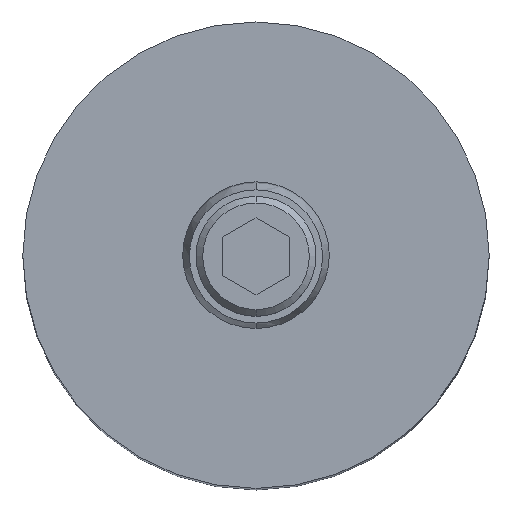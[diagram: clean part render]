
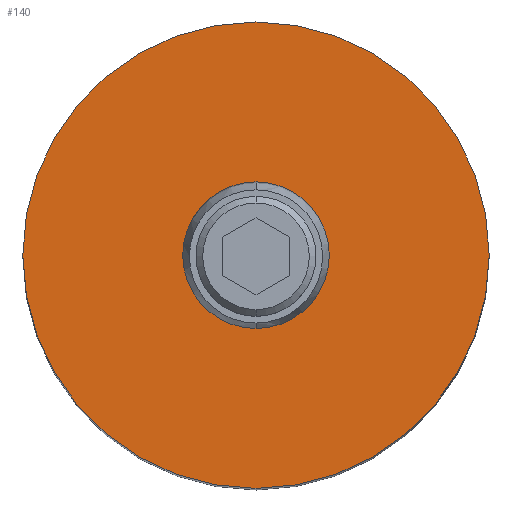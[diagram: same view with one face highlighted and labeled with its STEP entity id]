
A CAD part, top view. The second image highlights one B-rep face of the part: STEP entity #140.
In plain terms, the highlighted planar face has unit normal (0, 0, 1).
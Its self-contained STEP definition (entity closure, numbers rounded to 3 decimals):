
#110=PLANE('',#653);
#125=FACE_BOUND('',#221,.T.);
#126=FACE_BOUND('',#222,.T.);
#140=ADVANCED_FACE('',(#125,#126),#110,.T.);
#221=EDGE_LOOP('',(#311,#312));
#222=EDGE_LOOP('',(#313,#314));
#258=CIRCLE('',#641,35.);
#259=CIRCLE('',#643,35.);
#263=CIRCLE('',#649,11.);
#264=CIRCLE('',#651,11.);
#311=ORIENTED_EDGE('',*,*,#488,.F.);
#312=ORIENTED_EDGE('',*,*,#489,.F.);
#313=ORIENTED_EDGE('',*,*,#496,.T.);
#314=ORIENTED_EDGE('',*,*,#494,.T.);
#439=VERTEX_POINT('',#894);
#442=VERTEX_POINT('',#899);
#445=VERTEX_POINT('',#911);
#446=VERTEX_POINT('',#913);
#488=EDGE_CURVE('',#442,#439,#258,.T.);
#489=EDGE_CURVE('',#439,#442,#259,.T.);
#494=EDGE_CURVE('',#446,#445,#263,.T.);
#496=EDGE_CURVE('',#445,#446,#264,.T.);
#641=AXIS2_PLACEMENT_3D('',#900,#716,#717);
#643=AXIS2_PLACEMENT_3D('',#902,#720,#721);
#649=AXIS2_PLACEMENT_3D('',#912,#733,#734);
#651=AXIS2_PLACEMENT_3D('',#916,#738,#739);
#653=AXIS2_PLACEMENT_3D('',#918,#742,#743);
#716=DIRECTION('',(0.,0.,-1.));
#717=DIRECTION('',(1.,0.,0.));
#720=DIRECTION('',(0.,0.,-1.));
#721=DIRECTION('',(-1.,0.,0.));
#733=DIRECTION('',(0.,0.,-1.));
#734=DIRECTION('',(1.,0.,0.));
#738=DIRECTION('',(0.,0.,-1.));
#739=DIRECTION('',(-1.,0.,0.));
#742=DIRECTION('',(0.,0.,1.));
#743=DIRECTION('',(-1.,0.,0.));
#894=CARTESIAN_POINT('',(0.,35.,140.));
#899=CARTESIAN_POINT('',(0.,-35.,140.));
#900=CARTESIAN_POINT('',(0.,0.,140.));
#902=CARTESIAN_POINT('',(0.,0.,140.));
#911=CARTESIAN_POINT('',(0.,11.,140.));
#912=CARTESIAN_POINT('',(0.,0.,140.));
#913=CARTESIAN_POINT('',(0.,-11.,140.));
#916=CARTESIAN_POINT('',(0.,0.,140.));
#918=CARTESIAN_POINT('',(0.,0.,140.));
